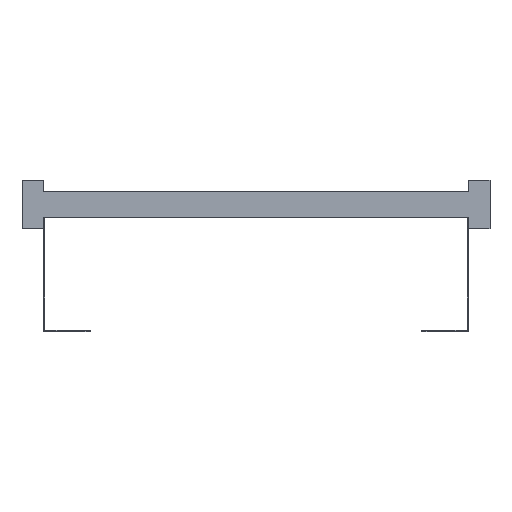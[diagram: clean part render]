
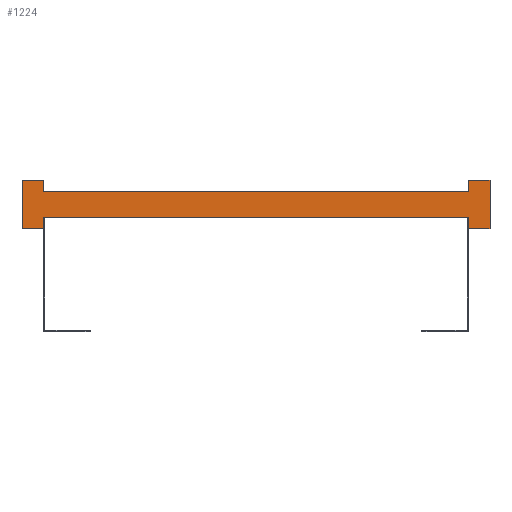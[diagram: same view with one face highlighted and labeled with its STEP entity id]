
A CAD part, front view. The second image highlights one B-rep face of the part: STEP entity #1224.
In plain terms, the highlighted planar face has unit normal (0, -1, 0).
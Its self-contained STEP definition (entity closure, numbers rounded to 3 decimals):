
#113=DIRECTION('',(0.,0.,1.));
#114=VECTOR('',#113,13.5);
#115=CARTESIAN_POINT('',(250.,0.,-28.5));
#116=LINE('',#115,#114);
#117=DIRECTION('',(0.,0.,-1.));
#118=VECTOR('',#117,13.5);
#119=CARTESIAN_POINT('',(-250.,0.,-15.));
#120=LINE('',#119,#118);
#121=DIRECTION('',(-1.,0.,0.));
#122=VECTOR('',#121,25.);
#123=CARTESIAN_POINT('',(-250.,0.,-28.5));
#124=LINE('',#123,#122);
#125=DIRECTION('',(0.,0.,1.));
#126=VECTOR('',#125,57.);
#127=CARTESIAN_POINT('',(-275.,0.,-28.5));
#128=LINE('',#127,#126);
#129=DIRECTION('',(1.,0.,0.));
#130=VECTOR('',#129,25.);
#131=CARTESIAN_POINT('',(-275.,0.,28.5));
#132=LINE('',#131,#130);
#133=DIRECTION('',(0.,0.,-1.));
#134=VECTOR('',#133,13.5);
#135=CARTESIAN_POINT('',(-250.,0.,28.5));
#136=LINE('',#135,#134);
#137=DIRECTION('',(0.,0.,1.));
#138=VECTOR('',#137,13.5);
#139=CARTESIAN_POINT('',(250.,0.,15.));
#140=LINE('',#139,#138);
#141=DIRECTION('',(1.,0.,0.));
#142=VECTOR('',#141,25.);
#143=CARTESIAN_POINT('',(250.,0.,28.5));
#144=LINE('',#143,#142);
#145=DIRECTION('',(0.,0.,-1.));
#146=VECTOR('',#145,57.);
#147=CARTESIAN_POINT('',(275.,0.,28.5));
#148=LINE('',#147,#146);
#149=DIRECTION('',(-1.,0.,0.));
#150=VECTOR('',#149,25.);
#151=CARTESIAN_POINT('',(275.,0.,-28.5));
#152=LINE('',#151,#150);
#913=DIRECTION('',(1.,0.,0.));
#914=VECTOR('',#913,500.);
#915=CARTESIAN_POINT('',(-250.,0.,-15.));
#916=LINE('',#915,#914);
#925=DIRECTION('',(1.,0.,0.));
#926=VECTOR('',#925,500.);
#927=CARTESIAN_POINT('',(-250.,0.,15.));
#928=LINE('',#927,#926);
#929=CARTESIAN_POINT('',(-275.,0.,28.5));
#930=CARTESIAN_POINT('',(-250.,0.,28.5));
#931=VERTEX_POINT('',#929);
#932=VERTEX_POINT('',#930);
#933=CARTESIAN_POINT('',(-250.,0.,-28.5));
#934=CARTESIAN_POINT('',(-275.,0.,-28.5));
#935=VERTEX_POINT('',#933);
#936=VERTEX_POINT('',#934);
#937=CARTESIAN_POINT('',(275.,0.,28.5));
#938=CARTESIAN_POINT('',(275.,0.,-28.5));
#939=VERTEX_POINT('',#937);
#940=VERTEX_POINT('',#938);
#941=CARTESIAN_POINT('',(250.,0.,-28.5));
#942=VERTEX_POINT('',#941);
#943=CARTESIAN_POINT('',(250.,0.,28.5));
#944=VERTEX_POINT('',#943);
#961=CARTESIAN_POINT('',(-250.,0.,-15.));
#963=VERTEX_POINT('',#961);
#965=CARTESIAN_POINT('',(-250.,0.,15.));
#967=VERTEX_POINT('',#965);
#969=CARTESIAN_POINT('',(250.,0.,-15.));
#971=VERTEX_POINT('',#969);
#973=CARTESIAN_POINT('',(250.,0.,15.));
#975=VERTEX_POINT('',#973);
#1193=CARTESIAN_POINT('',(0.,0.,0.));
#1194=DIRECTION('',(0.,1.,0.));
#1195=DIRECTION('',(1.,0.,0.));
#1196=AXIS2_PLACEMENT_3D('',#1193,#1194,#1195);
#1197=PLANE('',#1196);
#1199=ORIENTED_EDGE('',*,*,#1198,.T.);
#1201=ORIENTED_EDGE('',*,*,#1200,.F.);
#1203=ORIENTED_EDGE('',*,*,#1202,.T.);
#1205=ORIENTED_EDGE('',*,*,#1204,.T.);
#1207=ORIENTED_EDGE('',*,*,#1206,.T.);
#1209=ORIENTED_EDGE('',*,*,#1208,.T.);
#1211=ORIENTED_EDGE('',*,*,#1210,.T.);
#1213=ORIENTED_EDGE('',*,*,#1212,.T.);
#1215=ORIENTED_EDGE('',*,*,#1214,.T.);
#1217=ORIENTED_EDGE('',*,*,#1216,.T.);
#1219=ORIENTED_EDGE('',*,*,#1218,.T.);
#1221=ORIENTED_EDGE('',*,*,#1220,.T.);
#1222=EDGE_LOOP('',(#1199,#1201,#1203,#1205,#1207,#1209,#1211,#1213,#1215,#1217,
#1219,#1221));
#1223=FACE_OUTER_BOUND('',#1222,.F.);
#1198=EDGE_CURVE('',#942,#971,#116,.T.);
#1200=EDGE_CURVE('',#963,#971,#916,.T.);
#1202=EDGE_CURVE('',#963,#935,#120,.T.);
#1204=EDGE_CURVE('',#935,#936,#124,.T.);
#1206=EDGE_CURVE('',#936,#931,#128,.T.);
#1208=EDGE_CURVE('',#931,#932,#132,.T.);
#1210=EDGE_CURVE('',#932,#967,#136,.T.);
#1212=EDGE_CURVE('',#967,#975,#928,.T.);
#1214=EDGE_CURVE('',#975,#944,#140,.T.);
#1216=EDGE_CURVE('',#944,#939,#144,.T.);
#1218=EDGE_CURVE('',#939,#940,#148,.T.);
#1220=EDGE_CURVE('',#940,#942,#152,.T.);
#1224=ADVANCED_FACE('',(#1223),#1197,.F.);
